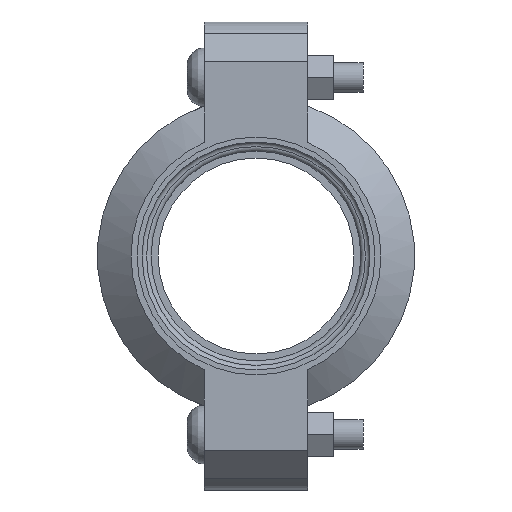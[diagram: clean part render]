
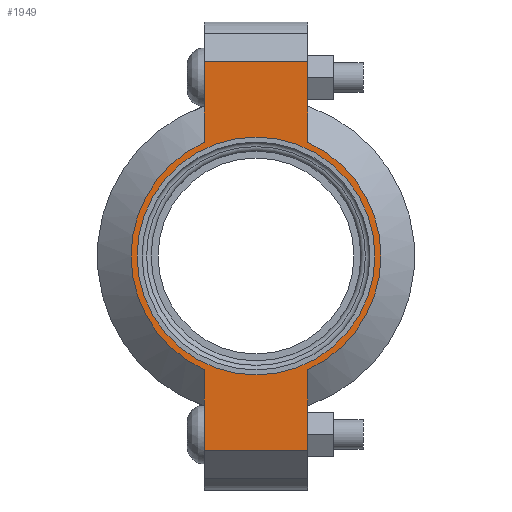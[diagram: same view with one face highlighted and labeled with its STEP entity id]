
A CAD part, left-side view. The second image highlights one B-rep face of the part: STEP entity #1949.
In plain terms, the highlighted planar face has unit normal (-1, 0, 0) as drawn and (0, 0, 1) by its records, which use the part's own axes.
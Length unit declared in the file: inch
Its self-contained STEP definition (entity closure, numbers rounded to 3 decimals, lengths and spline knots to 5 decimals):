
#120=LINE('',#3469,#219);
#133=LINE('',#3513,#232);
#138=LINE('',#3537,#237);
#145=LINE('',#3555,#244);
#152=LINE('',#3580,#251);
#153=LINE('',#3583,#252);
#219=VECTOR('',#2807,0.3937);
#232=VECTOR('',#2836,0.3937);
#237=VECTOR('',#2847,0.3937);
#244=VECTOR('',#2864,0.3937);
#251=VECTOR('',#2885,0.3937);
#252=VECTOR('',#2890,0.3937);
#304=FACE_BOUND('',#554,.T.);
#348=PLANE('',#2290);
#437=FACE_OUTER_BOUND('',#553,.T.);
#553=EDGE_LOOP('',(#1684,#1685,#1686,#1687,#1688,#1689,#1690,#1691));
#554=EDGE_LOOP('',(#1692));
#725=CIRCLE('',#2291,1.575);
#726=CIRCLE('',#2292,1.575);
#727=CIRCLE('',#2293,1.5);
#887=VERTEX_POINT('',#3464);
#888=VERTEX_POINT('',#3468);
#904=VERTEX_POINT('',#3510);
#905=VERTEX_POINT('',#3512);
#911=VERTEX_POINT('',#3532);
#912=VERTEX_POINT('',#3536);
#917=VERTEX_POINT('',#3552);
#918=VERTEX_POINT('',#3554);
#924=VERTEX_POINT('',#3585);
#1135=EDGE_CURVE('',#888,#887,#120,.T.);
#1155=EDGE_CURVE('',#905,#904,#133,.T.);
#1164=EDGE_CURVE('',#912,#911,#138,.T.);
#1173=EDGE_CURVE('',#918,#917,#145,.T.);
#1185=EDGE_CURVE('',#912,#904,#152,.T.);
#1186=EDGE_CURVE('',#911,#918,#725,.T.);
#1187=EDGE_CURVE('',#888,#917,#153,.T.);
#1188=EDGE_CURVE('',#887,#905,#726,.T.);
#1189=EDGE_CURVE('',#924,#924,#727,.T.);
#1684=ORIENTED_EDGE('',*,*,#1185,.F.);
#1685=ORIENTED_EDGE('',*,*,#1164,.T.);
#1686=ORIENTED_EDGE('',*,*,#1186,.T.);
#1687=ORIENTED_EDGE('',*,*,#1173,.T.);
#1688=ORIENTED_EDGE('',*,*,#1187,.F.);
#1689=ORIENTED_EDGE('',*,*,#1135,.T.);
#1690=ORIENTED_EDGE('',*,*,#1188,.T.);
#1691=ORIENTED_EDGE('',*,*,#1155,.T.);
#1692=ORIENTED_EDGE('',*,*,#1189,.T.);
#1949=ADVANCED_FACE('',(#437,#304),#348,.T.);
#2290=AXIS2_PLACEMENT_3D('',#3581,#2886,#2887);
#2291=AXIS2_PLACEMENT_3D('',#3582,#2888,#2889);
#2292=AXIS2_PLACEMENT_3D('',#3584,#2891,#2892);
#2293=AXIS2_PLACEMENT_3D('',#3586,#2893,#2894);
#2807=DIRECTION('',(1.,0.,0.));
#2836=DIRECTION('',(1.,0.,0.));
#2847=DIRECTION('',(-1.,0.,0.));
#2864=DIRECTION('',(-1.,0.,0.));
#2885=DIRECTION('',(0.,-1.,0.));
#2886=DIRECTION('center_axis',(0.,0.,1.));
#2887=DIRECTION('ref_axis',(-1.,0.,0.));
#2888=DIRECTION('center_axis',(0.,0.,1.));
#2889=DIRECTION('ref_axis',(1.,0.,0.));
#2890=DIRECTION('',(0.,1.,0.));
#2891=DIRECTION('center_axis',(0.,0.,1.));
#2892=DIRECTION('ref_axis',(1.,0.,0.));
#2893=DIRECTION('center_axis',(0.,0.,-1.));
#2894=DIRECTION('ref_axis',(1.,0.,0.));
#3464=CARTESIAN_POINT('',(-1.43462,-0.65,0.94));
#3468=CARTESIAN_POINT('',(-2.45,-0.65,0.94));
#3469=CARTESIAN_POINT('',(2.95,-0.65,0.94));
#3510=CARTESIAN_POINT('',(2.45,-0.65,0.94));
#3512=CARTESIAN_POINT('',(1.43462,-0.65,0.94));
#3513=CARTESIAN_POINT('',(2.95,-0.65,0.94));
#3532=CARTESIAN_POINT('',(1.43462,0.65,0.94));
#3536=CARTESIAN_POINT('',(2.45,0.65,0.94));
#3537=CARTESIAN_POINT('',(-2.95,0.65,0.94));
#3552=CARTESIAN_POINT('',(-2.45,0.65,0.94));
#3554=CARTESIAN_POINT('',(-1.43462,0.65,0.94));
#3555=CARTESIAN_POINT('',(-2.95,0.65,0.94));
#3580=CARTESIAN_POINT('',(2.45,-0.325,0.94));
#3581=CARTESIAN_POINT('Origin',(0.,0.,
0.94));
#3582=CARTESIAN_POINT('Origin',(0.,0.,0.94));
#3583=CARTESIAN_POINT('',(-2.45,0.325,0.94));
#3584=CARTESIAN_POINT('Origin',(0.,0.,0.94));
#3585=CARTESIAN_POINT('',(-1.5,0.,0.94));
#3586=CARTESIAN_POINT('Origin',(0.,0.,0.94));
